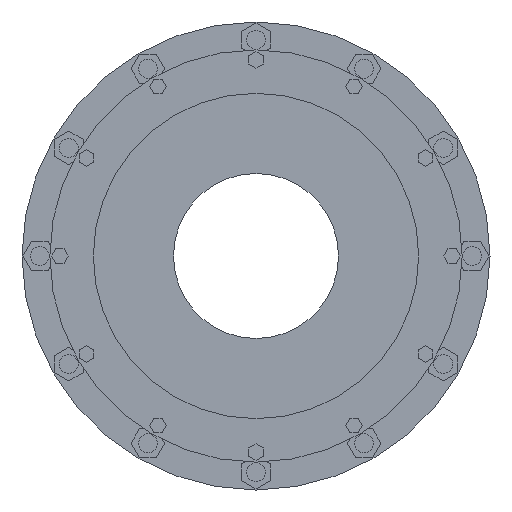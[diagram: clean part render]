
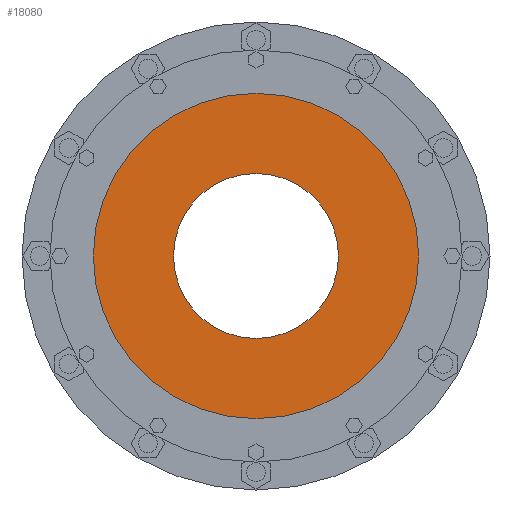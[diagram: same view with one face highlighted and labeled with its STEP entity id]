
A CAD part, left-side view. The second image highlights one B-rep face of the part: STEP entity #18080.
In plain terms, the highlighted planar face has unit normal (-1, 0, 0).
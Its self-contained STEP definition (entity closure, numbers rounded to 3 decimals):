
#17778=CARTESIAN_POINT('',(-916.,0.,0.));
#17779=DIRECTION('',(1.,0.,0.));
#17780=DIRECTION('',(0.,1.,0.));
#17781=AXIS2_PLACEMENT_3D('',#17778,#17779,#17780);
#17857=CARTESIAN_POINT('',(-916.,0.,0.));
#17858=DIRECTION('',(-1.,0.,0.));
#17859=DIRECTION('',(0.,1.,0.));
#17860=AXIS2_PLACEMENT_3D('',#17857,#17858,#17859);
#17862=CARTESIAN_POINT('',(-916.,0.,0.));
#17863=DIRECTION('',(1.,0.,0.));
#17864=DIRECTION('',(0.,1.,0.));
#17865=AXIS2_PLACEMENT_3D('',#17862,#17863,#17864);
#17876=CARTESIAN_POINT('',(-916.,0.,0.));
#17877=DIRECTION('',(-1.,0.,0.));
#17878=DIRECTION('',(0.,1.,0.));
#17879=AXIS2_PLACEMENT_3D('',#17876,#17877,#17878);
#17885=CARTESIAN_POINT('',(-916.,185.,0.));
#17886=CARTESIAN_POINT('',(-916.,-185.,0.));
#17887=VERTEX_POINT('',#17885);
#17888=VERTEX_POINT('',#17886);
#17889=CARTESIAN_POINT('',(-916.,365.,0.));
#17890=CARTESIAN_POINT('',(-916.,-365.,0.));
#17891=VERTEX_POINT('',#17889);
#17892=VERTEX_POINT('',#17890);
#18066=CARTESIAN_POINT('',(-916.,0.,0.));
#18067=DIRECTION('',(1.,0.,0.));
#18068=DIRECTION('',(0.,-1.,0.));
#18069=AXIS2_PLACEMENT_3D('',#18066,#18067,#18068);
#18070=PLANE('',#18069);
#18071=ORIENTED_EDGE('',*,*,#18048,.F.);
#18072=ORIENTED_EDGE('',*,*,#18061,.T.);
#18073=EDGE_LOOP('',(#18071,#18072));
#18074=FACE_OUTER_BOUND('',#18073,.F.);
#18075=ORIENTED_EDGE('',*,*,#17926,.F.);
#18077=ORIENTED_EDGE('',*,*,#18076,.T.);
#18078=EDGE_LOOP('',(#18075,#18077));
#18079=FACE_BOUND('',#18078,.F.);
#18080=ADVANCED_FACE('',(#18074,#18079),#18070,.F.);
#17782=CIRCLE('',#17781,185.);
#17861=CIRCLE('',#17860,365.);
#17866=CIRCLE('',#17865,365.);
#17880=CIRCLE('',#17879,185.);
#17926=EDGE_CURVE('',#17887,#17888,#17782,.T.);
#18048=EDGE_CURVE('',#17891,#17892,#17861,.T.);
#18061=EDGE_CURVE('',#17891,#17892,#17866,.T.);
#18076=EDGE_CURVE('',#17887,#17888,#17880,.T.);
